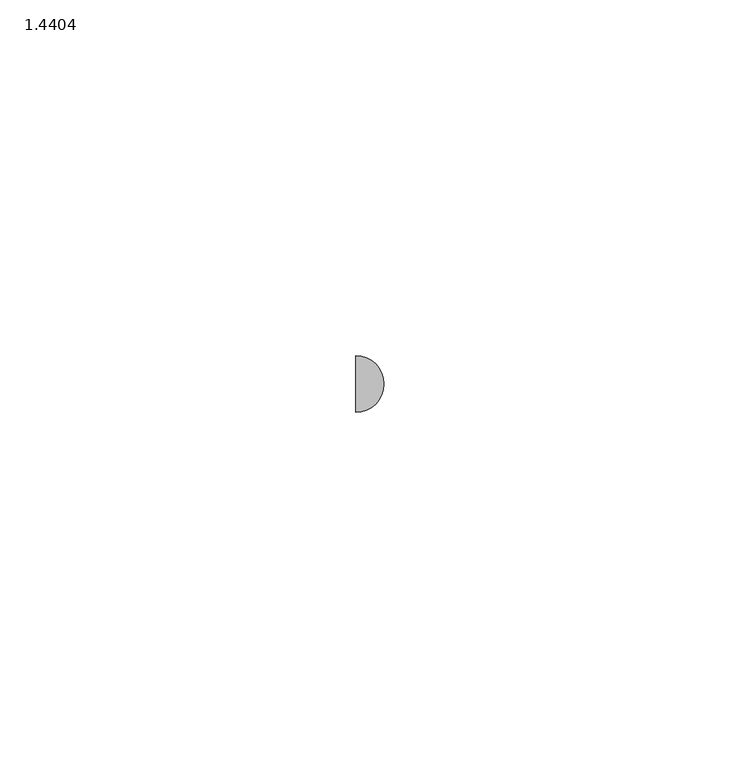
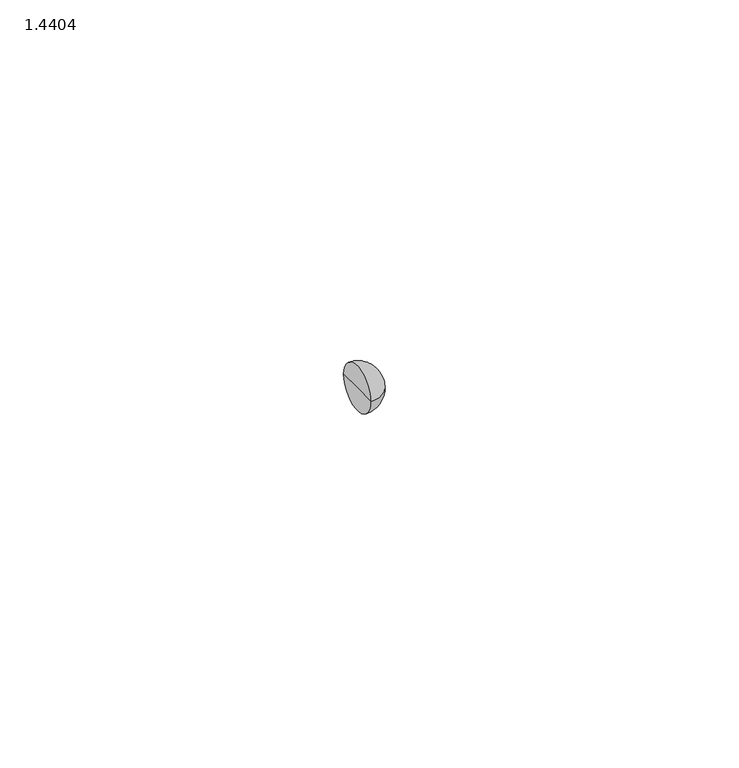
"""IFC4 building model written with IfcOpenShell, lengths in millimetres: pipe fitting geometry, PIF_ST_UN_ACO pipe double bend_ACO : 1.4404."""

from ifc_helpers import new_model, si_unit, point, frame, origin, place, context, project, spatial, circle_curve, ellipse_curve, trimmed, source, transform, mapped, element, save
from ifc_brep_helpers import plane_surface, revolved_surface, advanced_brep


def pipe_fitting_1_4404_a61b8bae(model_context):
    return source(origin(), model_context, "Body", "AdvancedBrep", [
        advanced_brep(
        [(-76.4471762, -4.0, 0.0), (-76.4471762, 4.0, 0.0), (-72.4471762, 0.0, 0.0), (-76.4471762, 0.0, 0.0)],
        [
            (0, 1, circle_curve(frame((-76.4471762, 0.0, 0.0), z_axis=(1.0, 0.0, 0.0), x_axis=(0.0, 1.0, 0.0)), 4.0)),
            (1, 2, circle_curve(frame((-76.4471762, 0.0, 0.0), z_axis=(0.0, 0.0, -1.0), x_axis=(-1.0, 0.0, 0.0)), 4.0)),
            (2, 0, circle_curve(frame((-76.4471762, 0.0, 0.0), z_axis=(0.0, 0.0, -1.0), x_axis=(-1.0, 0.0, 0.0)), 4.0)),
            (1, 0, circle_curve(frame((-76.4471762, 0.0, 0.0), z_axis=(1.0, 0.0, 0.0), x_axis=(0.0, 1.0, 0.0)), 4.0)),
            (3, 1),
            (0, 3),
        ],
        [
            revolved_surface(trimmed(ellipse_curve(frame((-76.4471762, 0.0, 0.0), z_axis=(0.0, 0.0, 1.0), x_axis=(-1.0, 0.0, 0.0)), 4.0, 4.0), [point((-72.4471762, 0.0, 0.0))], [point((-76.4471762, 4.0, 0.0))], True, "CARTESIAN"), (-83.4388536, 0.0, 0.0), (-1.0, 0.0, 0.0)),
            plane_surface(frame((-76.4471762, 0.0, 0.0), z_axis=(-1.0, 0.0, 0.0), x_axis=(0.0, 1.0, 0.0))),
        ],
        [
            (0, [[1, 2, 3]]),
            (0, [[4, -3, -2]]),
            (1, [[5, -1, 6]]),
            (1, [[-6, -4, -5]]),
        ],
    ),
    ])


if __name__ == "__main__":
    model = new_model("IFC4")
    model_context = context("Model", 3, world=origin())
    ifc_project = project(units=[si_unit("LENGTHUNIT", "METRE", prefix="MILLI")], contexts=[model_context])
    site = spatial("IfcSite", under=ifc_project)
    building = spatial("IfcBuilding", under=site)
    placement = place(None, origin())
    pipe_fitting_1_4404_shape = pipe_fitting_1_4404_a61b8bae(model_context)
    element("IfcPipeFitting", 1, ObjectType="PIF_ST_UN_ACO pipe double bend_ACO : 1.4404", at=placement, inside=building, context=model_context, shape_type="MappedRepresentation", body=[
        mapped(pipe_fitting_1_4404_shape, transform((0.0, 0.0, 0.0), x_axis=(1.0, 0.0, 0.0), y_axis=(0.0, 1.0, 0.0), z_axis=(0.0, 0.0, 1.0))),
    ])
    save(model, "model.ifc")
